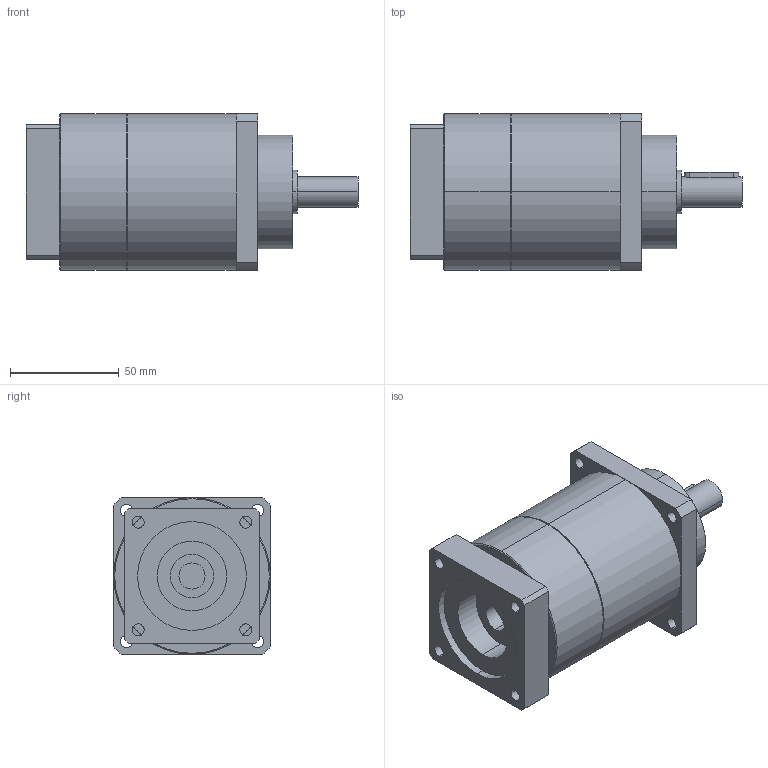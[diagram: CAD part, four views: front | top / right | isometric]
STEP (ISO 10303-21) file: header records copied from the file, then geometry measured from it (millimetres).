
FILE_DESCRIPTION(('CoCreate Modeling STEP Export'),'2;1');
FILE_NAME('GPT75_ig-9-12-16-20-25-28-35-40-50-70-100_14_B5T_12_P23.stp','2014-08-27T13:37:21',(''),(''),'CoCreate Modeling STEP processor for AP214 (Solid Model)','CoCreate Modeling 16.00C 25-Feb-2009 (C) Parametric Technology GmbH','');
FILE_SCHEMA(('AUTOMOTIVE_DESIGN { 1 0 10303 214 1 1 1 1 }'));
Length unit declared in the file: millimetre
Products named in the file (2): GPT75_ig-9-12-16-20-25-28-35-40-50-70-100_14_B5T_12_P23
Assembly tree (1 placements, depth 2):
  GPT75_ig-9-12-16-20-25-28-35-40-50-70-100_14_B5T_12_P23
    GPT75_ig-9-12-16-20-25-28-35-40-50-70-100_14_B5T_12_P23
Bounding box: 152.5 x 72 x 72 mm (x, y, z)
Volume: 458281.3 mm3; surface area: 44873.1 mm2
Topology: 1 solids, 1 shells, 88 faces, 226 edges, 145 vertices
Faces by surface type: cylinder 46, plane 38, cone 4
Entity records: 2676 total; most frequent: CARTESIAN_POINT 744, ORIENTED_EDGE 452, DIRECTION 334, EDGE_CURVE 226, VERTEX_POINT 145, AXIS2_PLACEMENT_3D 123, EDGE_LOOP 109, VECTOR 88
